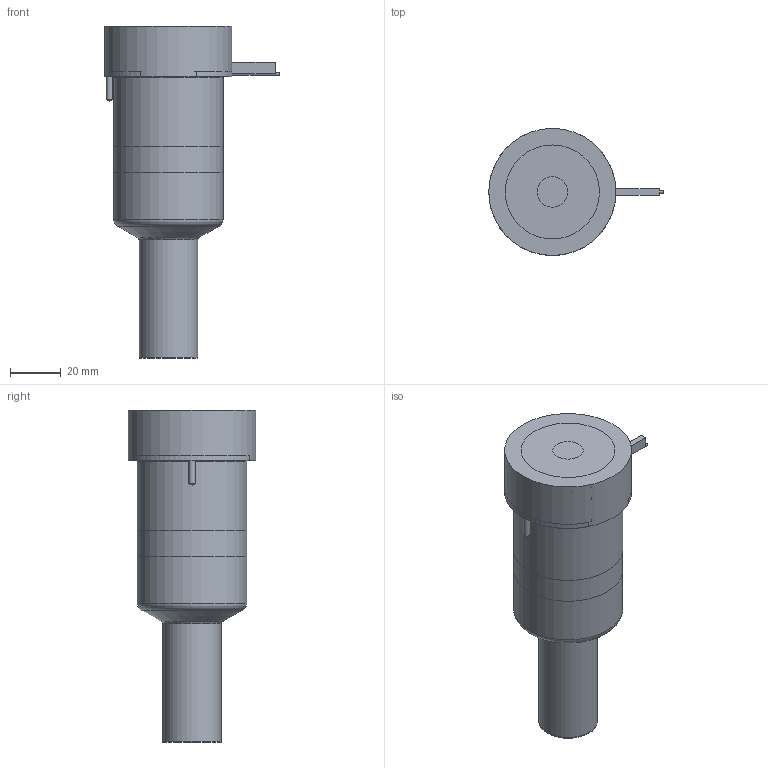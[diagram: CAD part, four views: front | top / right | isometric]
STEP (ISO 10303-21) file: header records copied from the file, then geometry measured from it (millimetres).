
FILE_DESCRIPTION(/* description */ (''),/* implementation_level */ '2;1');
FILE_NAME(/* name */ 'BXTSL-BXISL-BXOSL27075_250C_b',/* time_stamp */ '2008-04-29T14:06:00+12:00',/* author */ (''),/* organization */ (''),/* preprocessor_version */ 'ST-DEVELOPER v9',/* originating_system */ 'UGS - NX 4.0',/* authorisation */ '');
FILE_SCHEMA (('CONFIG_CONTROL_DESIGN'));
Length unit declared in the file: millimetre
Products named in the file (1): BXTSL-BXISL-BXOSL27075_250C_b
Bounding box: 68.6 x 50 x 130.56 mm (x, y, z)
Volume: 283711.9 mm3; surface area: 41559.2 mm2
Topology: 6 solids, 6 shells, 74 faces, 148 edges, 96 vertices
Faces by surface type: plane 33, cylinder 23, cone 9, torus 8, bspline 1
Full cylindrical faces by diameter (mm): 1 x3, 2 x1, 2.5 x2, 12 x1, 22.61 x1, 23.01 x2, 27.5 x1, 38.1 x1, 43 x2, 50 x1
Entity records: 1987 total; most frequent: CARTESIAN_POINT 481, DIRECTION 312, ORIENTED_EDGE 230, AXIS2_PLACEMENT_3D 137, EDGE_CURVE 115, EDGE_LOOP 110, VERTEX_POINT 90, ADVANCED_FACE 74
